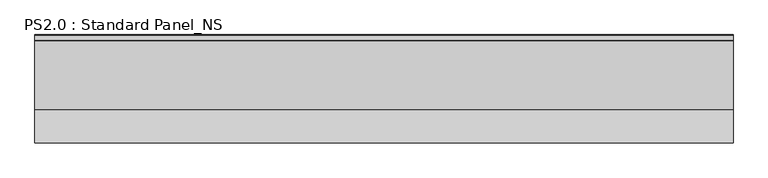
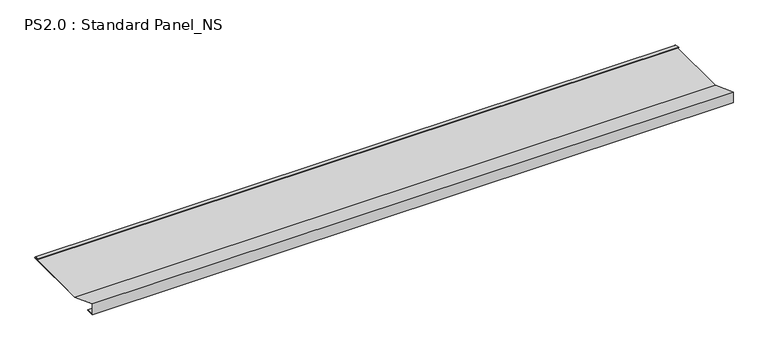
"""IFC4 building model written with IfcOpenShell, lengths in millimetres: proxy geometry, PS2.0 : Standard Panel_NS."""

from ifc_helpers import new_model, si_unit, point, frame, frame_2d, origin, place, context, project, spatial, polyline, circle_curve, trimmed, segment, composite_curve, outline, extrude, source, transform, mapped, element, save


def ps2_0_standard_panel_ns_86166604(model_context):
    return source(origin(), model_context, "Body", "SweptSolid", [
        extrude(outline(composite_curve([segment(polyline([(0.0, 0.0), (0.0, 38.0), (100.0, 0.0), (324.8317866, 0.0)]), True, "CONTINUOUS"), segment(trimmed(circle_curve(frame_2d((324.3094696, 0.9153551)), 1.0538928), [point((324.8317866, 0.0))], [point((324.8448691, 1.8231201))], True, "CARTESIAN"), True, "CONTINUOUS"), segment(polyline([(324.8448691, 1.8231201), (308.5989911, 4.94103), (308.7874714, 5.923107), (325.1748462, 2.778041)]), True, "CONTINUOUS"), segment(trimmed(circle_curve(frame_2d((324.3094696, 0.9153551)), 2.0538928), [point((325.1748462, 2.778041))], [point((325.0510156, -1.0))], False, "CARTESIAN"), True, "CONTINUOUS"), segment(polyline([(325.0510156, -1.0), (99.8164044, -1.0), (1.0, 36.5502337), (1.0, 1.0), (25.0, 1.0), (25.0, 0.0), (0.0, 0.0)]), True, "CONTINUOUS")], self_intersect=False)), frame((0.0, 0.0, 0.0), z_axis=(1.0, 0.0, 0.0), x_axis=(0.0, 1.0, 0.0)), (0.0, 0.0, 1.0), 2100.0),
    ])


if __name__ == "__main__":
    model = new_model("IFC4")
    model_context = context("Model", 3, world=origin())
    ifc_project = project(units=[si_unit("LENGTHUNIT", "METRE", prefix="MILLI")], contexts=[model_context])
    site = spatial("IfcSite", under=ifc_project)
    building = spatial("IfcBuilding", under=site)
    placement = place(None, origin())
    ps2_0_standard_panel_ns_shape = ps2_0_standard_panel_ns_86166604(model_context)
    element("IfcBuildingElementProxy", 1, Name="PS2.0 : Standard Panel_NS", ObjectType="PS2.0 : Standard Panel_NS", at=placement, inside=building, context=model_context, shape_type="MappedRepresentation", body=[
        mapped(ps2_0_standard_panel_ns_shape, transform((0.0, 0.0, 0.0), x_axis=(1.0, 0.0, 0.0), y_axis=(0.0, 1.0, 0.0), z_axis=(0.0, 0.0, 1.0))),
    ])
    save(model, "model.ifc")
